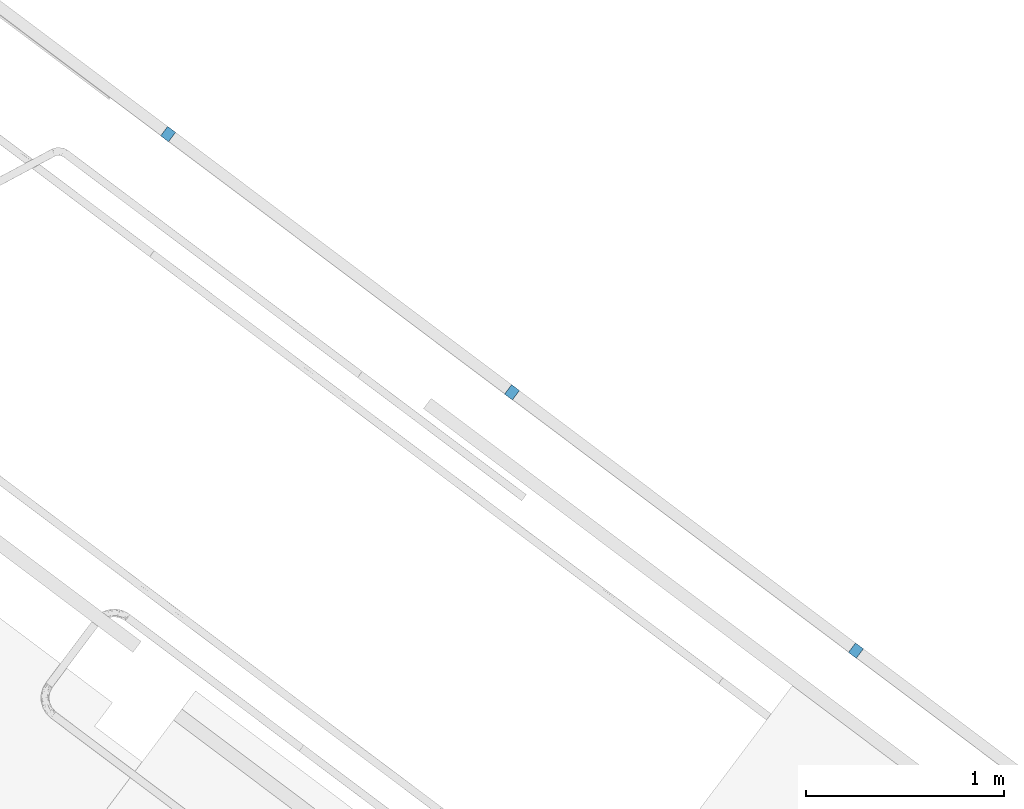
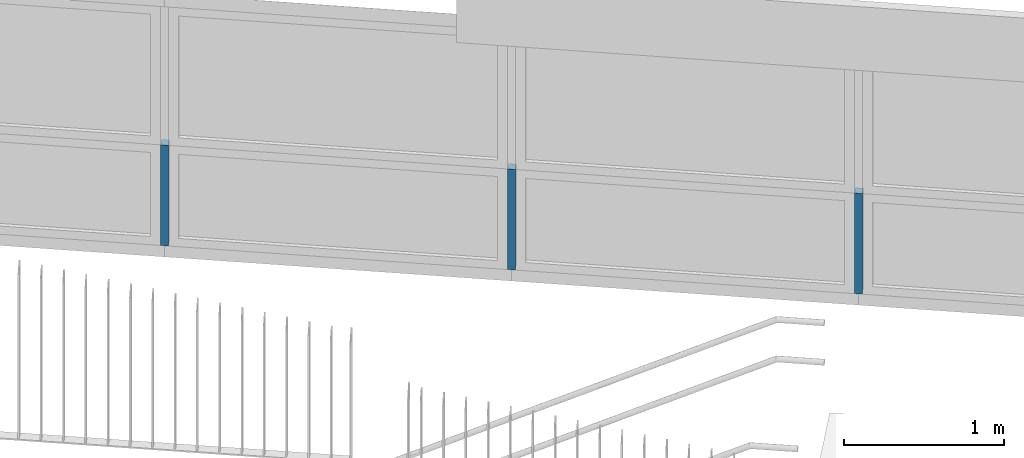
# One storey, part 107 of 243: 3 members, 1 element without a shape of its own.
"""IFC2X3 building model written with IfcOpenShell, lengths in metres."""

from ifc_helpers import new_model, entity, si_unit, converted_unit, derived_unit, direction, frame, frame_2d, origin, place, context, subcontext, project, spatial, rectangle, extrude, source, transform, mapped, material, type_object, type_shapes, element, aggregate, save


model = new_model("IFC2X3")

# Units and contexts
model_context = context("Model", 3, precision=1e-05, world=origin(), true_north=direction((6.123031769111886e-17, 1.0)))
body_context = subcontext(model_context, "Body", "Model", "MODEL_VIEW")
ifc_project = project(units=[si_unit("LENGTHUNIT", "METRE"), si_unit("AREAUNIT", "SQUARE_METRE"), si_unit("VOLUMEUNIT", "CUBIC_METRE"), converted_unit("PLANEANGLEUNIT", "DEGREE", entity("IfcRatioMeasure", 0.017453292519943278), si_unit("PLANEANGLEUNIT", "RADIAN"), dimensions=[0, 0, 0, 0, 0, 0, 0]), si_unit("MASSUNIT", "GRAM", prefix="KILO"), derived_unit("MASSDENSITYUNIT", [(si_unit("MASSUNIT", "GRAM", prefix="KILO"), 1), (si_unit("LENGTHUNIT", "METRE"), -3)]), derived_unit("IONCONCENTRATIONUNIT", [(si_unit("MASSUNIT", "GRAM", prefix="KILO"), 1), (si_unit("LENGTHUNIT", "METRE"), -3)]), derived_unit("MOMENTOFINERTIAUNIT", [(si_unit("LENGTHUNIT", "METRE"), 4)]), si_unit("TIMEUNIT", "SECOND"), si_unit("FREQUENCYUNIT", "HERTZ"), si_unit("THERMODYNAMICTEMPERATUREUNIT", "DEGREE_CELSIUS"), derived_unit("THERMALTRANSMITTANCEUNIT", [(si_unit("MASSUNIT", "GRAM", prefix="KILO"), 1), (si_unit("THERMODYNAMICTEMPERATUREUNIT", "KELVIN"), -1), (si_unit("TIMEUNIT", "SECOND"), -3)]), derived_unit("THERMALCONDUCTANCEUNIT", [(si_unit("MASSUNIT", "GRAM", prefix="KILO"), 1), (si_unit("THERMODYNAMICTEMPERATUREUNIT", "KELVIN"), -1), (si_unit("TIMEUNIT", "SECOND"), -3), (si_unit("LENGTHUNIT", "METRE"), 1)]), derived_unit("VOLUMETRICFLOWRATEUNIT", [(si_unit("LENGTHUNIT", "METRE"), 3), (si_unit("TIMEUNIT", "SECOND"), -1)]), derived_unit("MASSFLOWRATEUNIT", [(si_unit("MASSUNIT", "GRAM", prefix="KILO"), 1), (si_unit("TIMEUNIT", "SECOND"), -1)]), derived_unit("ROTATIONALFREQUENCYUNIT", [(si_unit("TIMEUNIT", "SECOND"), -1)]), si_unit("ELECTRICCURRENTUNIT", "AMPERE"), si_unit("ELECTRICVOLTAGEUNIT", "VOLT"), si_unit("POWERUNIT", "WATT"), si_unit("FORCEUNIT", "NEWTON", prefix="KILO"), si_unit("ILLUMINANCEUNIT", "LUX"), si_unit("LUMINOUSFLUXUNIT", "LUMEN"), si_unit("LUMINOUSINTENSITYUNIT", "CANDELA"), derived_unit("USERDEFINED", [(si_unit("MASSUNIT", "GRAM", prefix="KILO"), -1), (si_unit("LENGTHUNIT", "METRE"), -2), (si_unit("TIMEUNIT", "SECOND"), 3), (si_unit("LUMINOUSFLUXUNIT", "LUMEN"), 1)]), derived_unit("USERDEFINED", [(si_unit("MASSUNIT", "GRAM", prefix="KILO"), 1), (si_unit("TIMEUNIT", "SECOND"), -3), (si_unit("LENGTHUNIT", "METRE"), 3), (si_unit("ELECTRICCURRENTUNIT", "AMPERE"), -2)]), derived_unit("SOUNDPOWERUNIT", [(si_unit("MASSUNIT", "GRAM", prefix="KILO"), 1), (si_unit("TIMEUNIT", "SECOND"), -3), (si_unit("LENGTHUNIT", "METRE"), 2)]), derived_unit("SOUNDPRESSUREUNIT", [(si_unit("MASSUNIT", "GRAM", prefix="KILO"), 1), (si_unit("LENGTHUNIT", "METRE"), -1), (si_unit("TIMEUNIT", "SECOND"), -2)]), derived_unit("LINEARVELOCITYUNIT", [(si_unit("LENGTHUNIT", "METRE"), 1), (si_unit("TIMEUNIT", "SECOND"), -1)]), si_unit("PRESSUREUNIT", "PASCAL"), derived_unit("USERDEFINED", [(si_unit("MASSUNIT", "GRAM", prefix="KILO"), 1), (si_unit("LENGTHUNIT", "METRE"), -2), (si_unit("TIMEUNIT", "SECOND"), -2)]), derived_unit("LINEARFORCEUNIT", [(si_unit("MASSUNIT", "GRAM", prefix="KILO"), 1), (si_unit("TIMEUNIT", "SECOND"), -2)]), derived_unit("PLANARFORCEUNIT", [(si_unit("MASSUNIT", "GRAM", prefix="KILO"), 1), (si_unit("LENGTHUNIT", "METRE"), -1), (si_unit("TIMEUNIT", "SECOND"), -2)]), derived_unit("SPECIFICHEATCAPACITYUNIT", [(si_unit("THERMODYNAMICTEMPERATUREUNIT", "KELVIN"), -1), (si_unit("LENGTHUNIT", "METRE"), 2), (si_unit("TIMEUNIT", "SECOND"), -2)]), derived_unit("HEATINGVALUEUNIT", [(si_unit("LENGTHUNIT", "METRE"), 2), (si_unit("TIMEUNIT", "SECOND"), -2)]), derived_unit("VAPORPERMEABILITYUNIT", [(si_unit("LENGTHUNIT", "METRE"), -1), (si_unit("TIMEUNIT", "SECOND"), 1)]), derived_unit("DYNAMICVISCOSITYUNIT", [(si_unit("MASSUNIT", "GRAM", prefix="KILO"), 1), (si_unit("TIMEUNIT", "SECOND"), -1), (si_unit("LENGTHUNIT", "METRE"), -1)]), derived_unit("THERMALEXPANSIONCOEFFICIENTUNIT", [(si_unit("THERMODYNAMICTEMPERATUREUNIT", "KELVIN"), -1)]), derived_unit("MODULUSOFELASTICITYUNIT", [(si_unit("MASSUNIT", "GRAM", prefix="KILO"), 1), (si_unit("LENGTHUNIT", "METRE"), -1), (si_unit("TIMEUNIT", "SECOND"), -2)]), derived_unit("ISOTHERMALMOISTURECAPACITYUNIT", [(si_unit("LENGTHUNIT", "METRE"), 3), (si_unit("MASSUNIT", "GRAM", prefix="KILO"), -1)]), derived_unit("MOISTUREDIFFUSIVITYUNIT", [(si_unit("TIMEUNIT", "SECOND"), -1), (si_unit("LENGTHUNIT", "METRE"), 2)])], contexts=[model_context])

# Site, building, storey
site_placement = place(None, frame((0.0, 0.0, 235.0), z_axis=(0.0, 0.0, 1.0), x_axis=(-0.7996477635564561, 0.6004693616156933, 0.0)))
site = spatial("IfcSite", under=ifc_project, at=site_placement, Name="Default", CompositionType="ELEMENT")
building_placement = place(site_placement, origin())
building = spatial("IfcBuilding", under=site, at=building_placement, CompositionType="ELEMENT")
storey_placement = place(building_placement, origin())
storey = spatial("IfcBuildingStorey", under=building, at=storey_placement, Name="P0- Escola", CompositionType="ELEMENT", Elevation=0.0)

# Curtain wall, members
curtain_wall_type = type_object("IfcCurtainWallType", Name="Muro cortina:MC- EXT- MC9", PredefinedType="NOTDEFINED")
curtain_wall_placement = place(storey_placement, origin())
curtain_wall = element("IfcCurtainWall", 1, at=curtain_wall_placement, inside=storey, type_object=curtain_wall_type, Name="Muro cortina:MC- EXT- MC9", ObjectType="Muro cortina:MC- EXT- MC9")
ifc_material = material(Name="_Alumini- T1- Perfil")
member_type = type_object("IfcMemberType", Name="Montante rectangular:MC- Alu- 50x60 cm- Fa pista- Centre", PredefinedType="MULLION", material=ifc_material)
shared_shape = source(origin(), body_context, "Body", "SweptSolid", [
    extrude(rectangle(XDim=0.0600000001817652, YDim=0.05, at=frame_2d((8.673617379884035e-18, 0.0), x_axis=(1.0, 0.0))), frame((0.0, -0.030000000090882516, -0.7650000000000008), z_axis=(0.0, 0.0, 1.0), x_axis=(0.0, -1.0, 0.0)), (0.0, 0.0, 1.0), 0.7650000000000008),
])
type_shapes(member_type, [shared_shape])
member_1_placement = place(curtain_wall_placement, frame((25.794143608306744, -42.34019175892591, 0.685), z_axis=(0.0, 0.0, -1.0), x_axis=(1.0, 0.0, 0.0)))
member_1 = element("IfcMember", 2, at=member_1_placement, type_object=member_type, material=ifc_material, Name="Montante rectangular:MC- Alu- 50x60 cm- Fa pista- Centre", ObjectType="Montante rectangular:MC- Alu- 50x60 cm- Fa pista- Centre", context=body_context, shape_type="MappedRepresentation", body=[
    mapped(shared_shape, transform((0.0, 0.0, 0.0), scale=1.0)),
])
member_2_placement = place(curtain_wall_placement, frame((27.971143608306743, -42.34019175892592, 0.685), z_axis=(0.0, 0.0, -1.0), x_axis=(1.0, 0.0, 0.0)))
member_2 = element("IfcMember", 3, at=member_2_placement, type_object=member_type, material=ifc_material, Name="Montante rectangular:MC- Alu- 50x60 cm- Fa pista- Centre", ObjectType="Montante rectangular:MC- Alu- 50x60 cm- Fa pista- Centre", context=body_context, shape_type="MappedRepresentation", body=[
    mapped(shared_shape, transform((0.0, 0.0, 0.0), scale=1.0)),
])
member_3_placement = place(curtain_wall_placement, frame((30.148143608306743, -42.340191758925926, 0.685), z_axis=(0.0, 0.0, -1.0), x_axis=(1.0, 0.0, 0.0)))
member_3 = element("IfcMember", 4, at=member_3_placement, type_object=member_type, material=ifc_material, Name="Montante rectangular:MC- Alu- 50x60 cm- Fa pista- Centre", ObjectType="Montante rectangular:MC- Alu- 50x60 cm- Fa pista- Centre", context=body_context, shape_type="MappedRepresentation", body=[
    mapped(shared_shape, transform((0.0, 0.0, 0.0), scale=1.0)),
])
aggregate(curtain_wall, [member_1, member_2, member_3])

save(model, "model.ifc")
